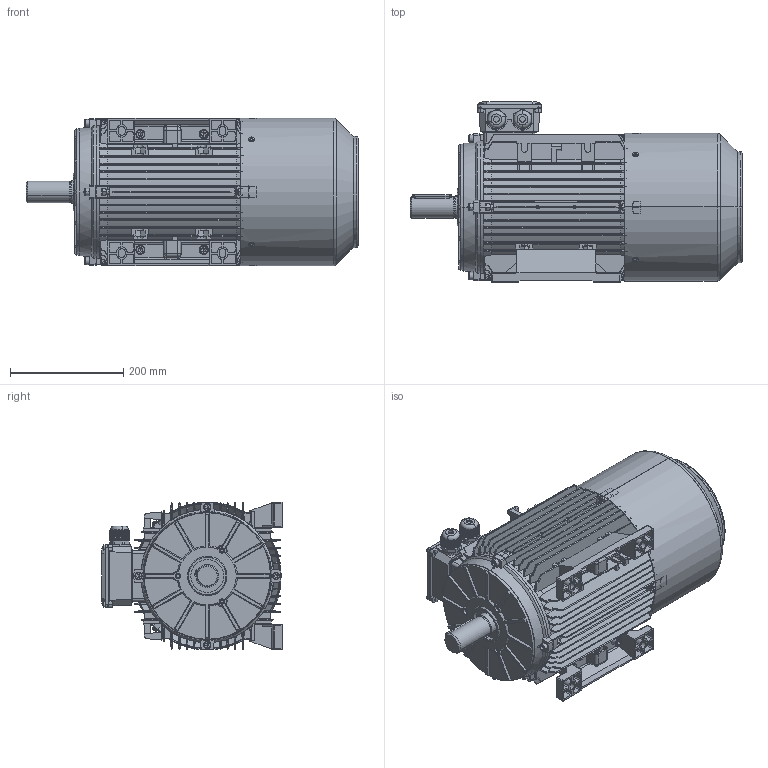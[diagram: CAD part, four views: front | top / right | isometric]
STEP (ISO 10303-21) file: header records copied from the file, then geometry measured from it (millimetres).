
FILE_DESCRIPTION (( 'STEP AP203' ), '1' );
FILE_NAME ('TB132M B3（风罩不带手柄孔）.STEP', '2021-10-26T01:35:57', ( '' ), ( '' ), 'SwSTEP 2.0', 'SolidWorks 2014', '' );
FILE_SCHEMA (( 'CONFIG_CONTROL_DESIGN' ));
Length unit declared in the file: millimetre
Products named in the file (17): TB132M B3（风罩不带手柄孔）; TB132綴裔; MS132諉盄碟釱; Hexagon socket head cap screws GB_GB_FASTENER_SCREWS_HSHCS M10X30-N; TB132瑞欶(祥湍忒梟謂); T132M菁褐; Cross recessed thread forming screws GB_GB_CROSS_SCREWS_TYPE138 M5X12-N; 112-132堤盄蹟杶; MS132諉盄碟裔; Hexagon nuts grade C GB_GB_FASTENER_NUT_SNC1 M10-N; 112怢宒瑞珔; TA132ヶ裔1; Plain parallel keys_GB_CONNECTING_PIECE_KEYS_CSK 10X70; Hexagon socket head cap screws GB_GB_FASTENER_SCREWS_HSHCS M8X35-N; TB132M蛌粣; T132M儂褲; Hexagon nuts grade C GB_GB_FASTENER_NUT_SNC1 M8-N
Assembly tree (45 placements, depth 2):
  TB132M B3（风罩不带手柄孔）
    T132M儂褲
    T132M菁褐  x2
    TA132ヶ裔1
    TB132綴裔
    112-132堤盄蹟杶  x2
    Hexagon socket head cap screws GB_GB_FASTENER_SCREWS_HSHCS M8X35-N  x8
    Hexagon socket head cap screws GB_GB_FASTENER_SCREWS_HSHCS M10X30-N  x4
    Hexagon nuts grade C GB_GB_FASTENER_NUT_SNC1 M10-N  x4
    Hexagon nuts grade C GB_GB_FASTENER_NUT_SNC1 M8-N  x8
    Cross recessed thread forming screws GB_GB_CROSS_SCREWS_TYPE138 M5X12-N  x8
    Plain parallel keys_GB_CONNECTING_PIECE_KEYS_CSK 10X70
    MS132諉盄碟釱
    MS132諉盄碟裔
    TB132M蛌粣
    TB132瑞欶(祥湍忒梟謂)
    112怢宒瑞珔
Bounding box: 586 x 318 x 261.1 mm (x, y, z)
Volume: 4050532.5 mm3; surface area: 2029027 mm2
Topology: 45 solids, 45 shells, 5773 faces, 15600 edges, 9879 vertices
Faces by surface type: plane 3060, cylinder 1381, bspline 713, cone 398, torus 197, sphere 24
Entity records: 180692 total; most frequent: CARTESIAN_POINT 65192, ORIENTED_EDGE 25728, DIRECTION 20455, EDGE_CURVE 12864, VERTEX_POINT 8241, VECTOR 7139, LINE 7139, AXIS2_PLACEMENT_3D 6658
